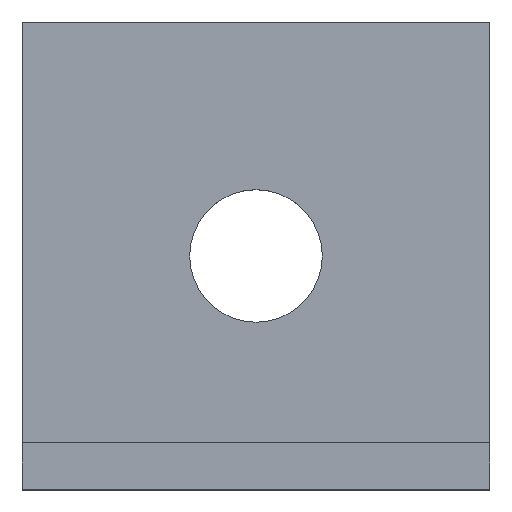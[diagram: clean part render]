
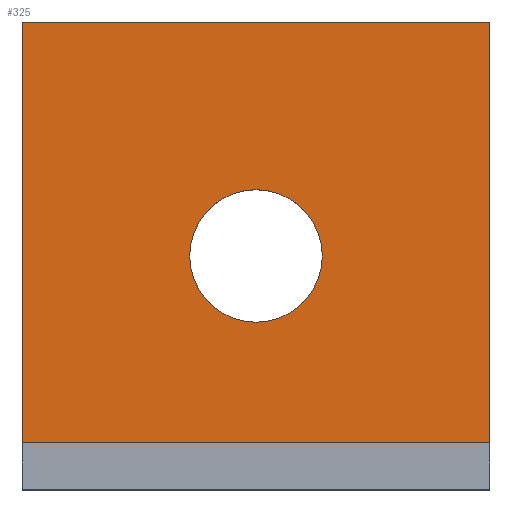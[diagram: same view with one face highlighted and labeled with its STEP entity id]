
A CAD part, top view. The second image highlights one B-rep face of the part: STEP entity #325.
In plain terms, the highlighted planar face has unit normal (0, 0, 1).
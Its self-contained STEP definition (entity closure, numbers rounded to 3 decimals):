
#13=FACE_BOUND($,#59,.T.);
#25=PLANE($,#349);
#41=FACE_OUTER_BOUND($,#58,.T.);
#58=EDGE_LOOP($,(#283,#284,#285,#286));
#59=EDGE_LOOP($,(#287));
#94=LINE($,#508,#132);
#97=LINE($,#515,#135);
#98=LINE($,#517,#136);
#99=LINE($,#518,#137);
#132=VECTOR($,#412,30.);
#135=VECTOR($,#421,27.);
#136=VECTOR($,#422,30.);
#137=VECTOR($,#423,27.);
#147=CIRCLE($,#350,4.25);
#171=VERTEX_POINT($,#505);
#172=VERTEX_POINT($,#507);
#173=VERTEX_POINT($,#514);
#174=VERTEX_POINT($,#516);
#175=VERTEX_POINT($,#519);
#210=EDGE_CURVE($,#172,#171,#94,.T.);
#213=EDGE_CURVE($,#171,#173,#97,.T.);
#214=EDGE_CURVE($,#173,#174,#98,.T.);
#215=EDGE_CURVE($,#174,#172,#99,.T.);
#216=EDGE_CURVE($,#175,#175,#147,.T.);
#283=ORIENTED_EDGE($,*,*,#210,.T.);
#284=ORIENTED_EDGE($,*,*,#213,.T.);
#285=ORIENTED_EDGE($,*,*,#214,.T.);
#286=ORIENTED_EDGE($,*,*,#215,.T.);
#287=ORIENTED_EDGE($,*,*,#216,.T.);
#325=ADVANCED_FACE($,(#41,#13),#25,.T.);
#349=AXIS2_PLACEMENT_3D($,#513,#419,#420);
#350=AXIS2_PLACEMENT_3D($,#520,#424,#425);
#412=DIRECTION($,(1.,0.,0.));
#419=DIRECTION('center_axis',(0.,0.,1.));
#420=DIRECTION('ref_axis',(1.,0.,0.));
#421=DIRECTION($,(0.,1.,0.));
#422=DIRECTION($,(-1.,0.,0.));
#423=DIRECTION($,(0.,-1.,0.));
#424=DIRECTION('center_axis',(0.,0.,-1.));
#425=DIRECTION('ref_axis',(-1.,0.,0.));
#505=CARTESIAN_POINT('',(15.,-12.,3.));
#507=CARTESIAN_POINT('',(-15.,-12.,3.));
#508=CARTESIAN_POINT($,(7.5,-12.,3.));
#513=CARTESIAN_POINT('Origin',(0.,0.,3.));
#514=CARTESIAN_POINT('',(15.,15.,3.));
#515=CARTESIAN_POINT($,(15.,15.,3.));
#516=CARTESIAN_POINT('',(-15.,15.,3.));
#517=CARTESIAN_POINT($,(-15.,15.,3.));
#518=CARTESIAN_POINT($,(-15.,-15.,3.));
#519=CARTESIAN_POINT('',(4.25,0.,3.));
#520=CARTESIAN_POINT('Origin',(0.,0.,3.));
